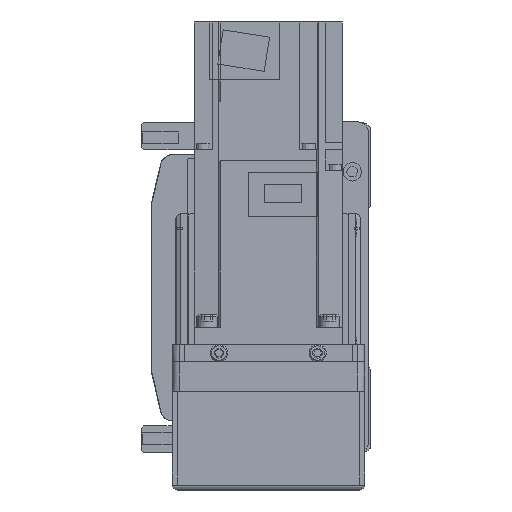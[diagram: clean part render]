
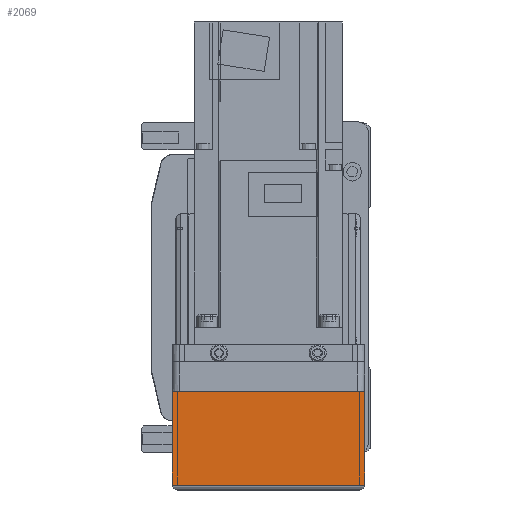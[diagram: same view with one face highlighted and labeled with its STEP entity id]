
A CAD part, left-side view. The second image highlights one B-rep face of the part: STEP entity #2069.
In plain terms, the highlighted planar face has unit normal (-1, 0, 0).
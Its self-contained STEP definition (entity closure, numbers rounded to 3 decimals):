
#2069 = ADVANCED_FACE( '', ( #4959 ), #4960, .F. );
#4959 = FACE_OUTER_BOUND( '', #8959, .T. );
#4960 = PLANE( '', #8960 );
#8959 = EDGE_LOOP( '', ( #14835, #14836, #14837, #14838 ) );
#8960 = AXIS2_PLACEMENT_3D( '', #14839, #14840, #14841 );
#14835 = ORIENTED_EDGE( '', *, *, #23853, .F. );
#14836 = ORIENTED_EDGE( '', *, *, #23854, .F. );
#14837 = ORIENTED_EDGE( '', *, *, #22802, .T. );
#14838 = ORIENTED_EDGE( '', *, *, #23855, .F. );
#14839 = CARTESIAN_POINT( '', ( -158., 36., 7. ) );
#14840 = DIRECTION( '', ( 1., 0., 0. ) );
#14841 = DIRECTION( '', ( 0., 0., -1. ) );
#22802 = EDGE_CURVE( '', #27339, #27341, #27343, .T. );
#23853 = EDGE_CURVE( '', #28885, #29063, #29064, .T. );
#23854 = EDGE_CURVE( '', #27339, #28885, #29065, .T. );
#23855 = EDGE_CURVE( '', #29063, #27341, #29066, .T. );
#27339 = VERTEX_POINT( '', #33984 );
#27341 = VERTEX_POINT( '', #33986 );
#27343 = LINE( '', #33988, #33989 );
#28885 = VERTEX_POINT( '', #36787 );
#29063 = VERTEX_POINT( '', #37097 );
#29064 = LINE( '', #37098, #37099 );
#29065 = LINE( '', #37100, #37101 );
#29066 = LINE( '', #37102, #37103 );
#33984 = CARTESIAN_POINT( '', ( -158., 39., -50. ) );
#33986 = CARTESIAN_POINT( '', ( -158., -39., -50. ) );
#33988 = CARTESIAN_POINT( '', ( -158., 40., -50. ) );
#33989 = VECTOR( '', #42581, 1000. );
#36787 = CARTESIAN_POINT( '', ( -158., 39., -12.1 ) );
#37097 = CARTESIAN_POINT( '', ( -158., -39., -12.1 ) );
#37098 = CARTESIAN_POINT( '', ( -158., 50., -12.1 ) );
#37099 = VECTOR( '', #43825, 1000. );
#37100 = CARTESIAN_POINT( '', ( -158., 39., -50. ) );
#37101 = VECTOR( '', #43826, 1000. );
#37102 = CARTESIAN_POINT( '', ( -158., -39., -12.1 ) );
#37103 = VECTOR( '', #43827, 1000. );
#42581 = DIRECTION( '', ( 0., -1., 0. ) );
#43825 = DIRECTION( '', ( 0., -1., 0. ) );
#43826 = DIRECTION( '', ( 0., 0., 1. ) );
#43827 = DIRECTION( '', ( 0., 0., -1. ) );
